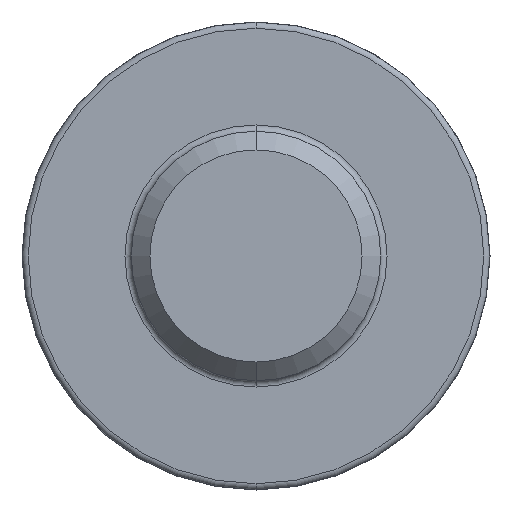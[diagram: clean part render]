
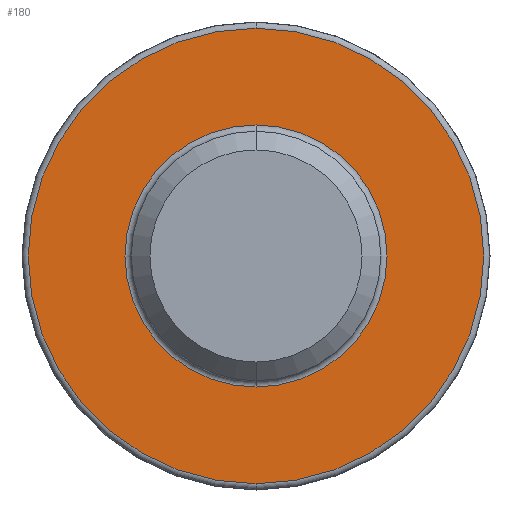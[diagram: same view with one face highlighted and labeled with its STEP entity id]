
A CAD part, front view. The second image highlights one B-rep face of the part: STEP entity #180.
In plain terms, the highlighted planar face has unit normal (0, -1, 0).
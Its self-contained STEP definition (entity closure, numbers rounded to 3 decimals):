
#22 = CIRCLE ( 'NONE', #804, 3.65 ) ;
#66 = ORIENTED_EDGE ( 'NONE', *, *, #518, .T. ) ;
#73 = AXIS2_PLACEMENT_3D ( 'NONE', #626, #422, #88 ) ;
#79 = EDGE_CURVE ( 'NONE', #267, #466, #315, .T. ) ;
#88 = DIRECTION ( 'NONE',  ( 0., 0., 1. ) ) ;
#125 = EDGE_CURVE ( 'NONE', #466, #267, #22, .T. ) ;
#141 = EDGE_CURVE ( 'NONE', #182, #295, #272, .T. ) ;
#169 = CARTESIAN_POINT ( 'NONE',  ( 0., -2.4, 0. ) ) ;
#180 = ADVANCED_FACE ( 'NONE', ( #846, #522 ), #654, .F. ) ;
#182 = VERTEX_POINT ( 'NONE', #457 ) ;
#185 = ORIENTED_EDGE ( 'NONE', *, *, #79, .T. ) ;
#192 = DIRECTION ( 'NONE',  ( 0., 1., 0. ) ) ;
#203 = CARTESIAN_POINT ( 'NONE',  ( 0., -2.4, -2.1 ) ) ;
#225 = AXIS2_PLACEMENT_3D ( 'NONE', #826, #230, #494 ) ;
#230 = DIRECTION ( 'NONE',  ( 0., -1., 0. ) ) ;
#245 = DIRECTION ( 'NONE',  ( 0., 1., 0. ) ) ;
#267 = VERTEX_POINT ( 'NONE', #548 ) ;
#272 = CIRCLE ( 'NONE', #490, 2.1 ) ;
#295 = VERTEX_POINT ( 'NONE', #203 ) ;
#315 = CIRCLE ( 'NONE', #225, 3.65 ) ;
#330 = AXIS2_PLACEMENT_3D ( 'NONE', #397, #245, #332 ) ;
#332 = DIRECTION ( 'NONE',  ( 0., 0., 1. ) ) ;
#351 = EDGE_LOOP ( 'NONE', ( #484, #185 ) ) ;
#397 = CARTESIAN_POINT ( 'NONE',  ( 2., -2.4, 0. ) ) ;
#422 = DIRECTION ( 'NONE',  ( 0., 1., 0. ) ) ;
#457 = CARTESIAN_POINT ( 'NONE',  ( 0., -2.4, 2.1 ) ) ;
#466 = VERTEX_POINT ( 'NONE', #758 ) ;
#484 = ORIENTED_EDGE ( 'NONE', *, *, #125, .T. ) ;
#490 = AXIS2_PLACEMENT_3D ( 'NONE', #706, #192, #701 ) ;
#494 = DIRECTION ( 'NONE',  ( 0., 0., 1. ) ) ;
#518 = EDGE_CURVE ( 'NONE', #295, #182, #770, .T. ) ;
#522 = FACE_OUTER_BOUND ( 'NONE', #351, .T. ) ;
#548 = CARTESIAN_POINT ( 'NONE',  ( 0., -2.4, -3.65 ) ) ;
#626 = CARTESIAN_POINT ( 'NONE',  ( 0., -2.4, 0. ) ) ;
#630 = DIRECTION ( 'NONE',  ( 0., 0., 1. ) ) ;
#651 = ORIENTED_EDGE ( 'NONE', *, *, #141, .T. ) ;
#654 = PLANE ( 'NONE',  #330 ) ;
#690 = DIRECTION ( 'NONE',  ( 0., -1., 0. ) ) ;
#701 = DIRECTION ( 'NONE',  ( 0., 0., 1. ) ) ;
#706 = CARTESIAN_POINT ( 'NONE',  ( 0., -2.4, 0. ) ) ;
#758 = CARTESIAN_POINT ( 'NONE',  ( 0., -2.4, 3.65 ) ) ;
#770 = CIRCLE ( 'NONE', #73, 2.1 ) ;
#783 = EDGE_LOOP ( 'NONE', ( #651, #66 ) ) ;
#804 = AXIS2_PLACEMENT_3D ( 'NONE', #169, #690, #630 ) ;
#826 = CARTESIAN_POINT ( 'NONE',  ( 0., -2.4, 0. ) ) ;
#846 = FACE_BOUND ( 'NONE', #783, .T. ) ;
